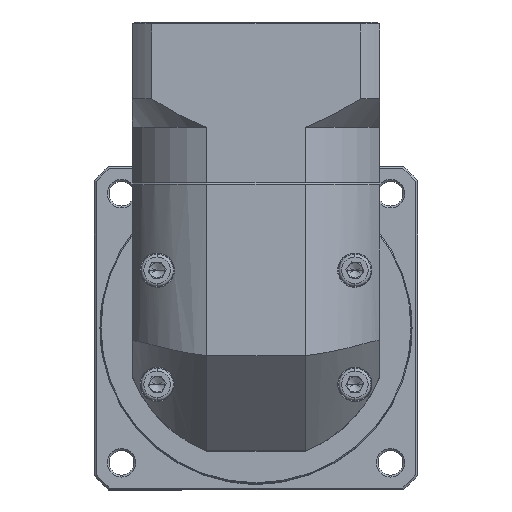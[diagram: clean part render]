
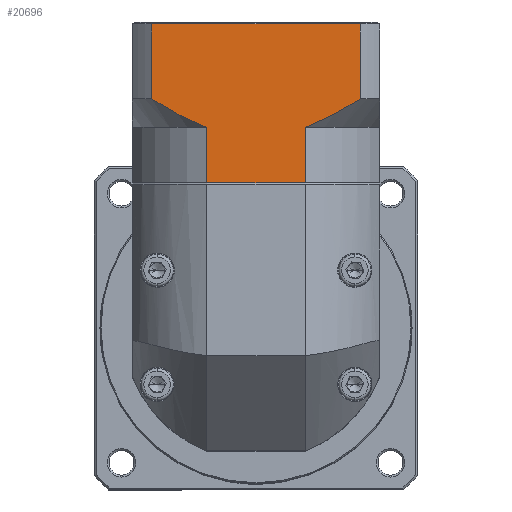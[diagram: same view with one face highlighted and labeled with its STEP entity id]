
A CAD part, top view. The second image highlights one B-rep face of the part: STEP entity #20696.
In plain terms, the highlighted planar face has unit normal (0, 0, 1).
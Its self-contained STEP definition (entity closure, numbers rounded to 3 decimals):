
#2153 = LINE ( 'NONE', #44701, #100082 ) ;
#2730 = VERTEX_POINT ( 'NONE', #47857 ) ;
#3401 = LINE ( 'NONE', #86720, #84725 ) ;
#9191 = CARTESIAN_POINT ( 'NONE',  ( -64.937, 80.015, 46.022 ) ) ;
#13860 = LINE ( 'NONE', #89253, #91756 ) ;
#14576 = CARTESIAN_POINT ( 'NONE',  ( -105.314, 102.015, 46.022 ) ) ;
#14679 = CARTESIAN_POINT ( 'NONE',  ( -64.295, 94.753, 46.022 ) ) ;
#15927 = VECTOR ( 'NONE', #34448, 1000. ) ;
#16199 = CARTESIAN_POINT ( 'NONE',  ( -64.937, 94.515, 46.022 ) ) ;
#17861 = VERTEX_POINT ( 'NONE', #131780 ) ;
#20255 = EDGE_CURVE ( 'NONE', #86479, #119621, #13860, .T. ) ;
#20696 = ADVANCED_FACE ( 'NONE', ( #104889 ), #47384, .F. ) ;
#23019 = EDGE_LOOP ( 'NONE', ( #104538, #62380, #130784, #41020, #104590, #46961, #92628, #80391 ) ) ;
#23926 = CARTESIAN_POINT ( 'NONE',  ( -50.541, 102.015, 46.022 ) ) ;
#25331 = CARTESIAN_POINT ( 'NONE',  ( -62.395, 95.531, 46.022 ) ) ;
#25639 = EDGE_CURVE ( 'NONE', #2730, #135716, #81844, .T. ) ;
#26285 = CARTESIAN_POINT ( 'NONE',  ( -103.024, 100.566, 46.022 ) ) ;
#29686 = VECTOR ( 'NONE', #118744, 1000. ) ;
#32464 = CARTESIAN_POINT ( 'NONE',  ( -105.314, 121.715, 46.022 ) ) ;
#34448 = DIRECTION ( 'NONE',  ( 0., 1., 0. ) ) ;
#35961 = CARTESIAN_POINT ( 'NONE',  ( -59.917, 96.655, 46.022 ) ) ;
#36245 = DIRECTION ( 'NONE',  ( 0., 1., 0. ) ) ;
#37761 = DIRECTION ( 'NONE',  ( 0., -1., 0. ) ) ;
#39498 = CARTESIAN_POINT ( 'NONE',  ( -50.541, 102.015, 46.022 ) ) ;
#41020 = ORIENTED_EDGE ( 'NONE', *, *, #115890, .T. ) ;
#43997 = B_SPLINE_CURVE_WITH_KNOTS ( 'NONE', 3,
 ( #55451, #14679, #98069, #25331, #120041, #35961, #110242, #87424, #46611, #23926 ),
 .UNSPECIFIED., .F., .F.,
 ( 4, 2, 2, 2, 4 ),
 ( 0.101, 0.103, 0.105, 0.109, 0.117 ),
 .UNSPECIFIED. ) ;
#44134 = EDGE_CURVE ( 'NONE', #2730, #83919, #72950, .T. ) ;
#44481 = DIRECTION ( 'NONE',  ( 0., 1., 0. ) ) ;
#44701 = CARTESIAN_POINT ( 'NONE',  ( -110.428, 80.015, 46.022 ) ) ;
#46611 = CARTESIAN_POINT ( 'NONE',  ( -52.81, 100.553, 46.022 ) ) ;
#46961 = ORIENTED_EDGE ( 'NONE', *, *, #131597, .T. ) ;
#47384 = PLANE ( 'NONE',  #53371 ) ;
#47857 = CARTESIAN_POINT ( 'NONE',  ( -50.541, 121.715, 46.022 ) ) ;
#48451 = CARTESIAN_POINT ( 'NONE',  ( -50.541, 94.515, 46.022 ) ) ;
#52506 = CARTESIAN_POINT ( 'NONE',  ( -90.918, 94.515, 46.022 ) ) ;
#53371 = AXIS2_PLACEMENT_3D ( 'NONE', #68312, #78962, #36245 ) ;
#53630 = VECTOR ( 'NONE', #123318, 1000. ) ;
#55451 = CARTESIAN_POINT ( 'NONE',  ( -64.937, 94.515, 46.022 ) ) ;
#58537 = EDGE_CURVE ( 'NONE', #17861, #119818, #3401, .T. ) ;
#62380 = ORIENTED_EDGE ( 'NONE', *, *, #44134, .T. ) ;
#65219 = DIRECTION ( 'NONE',  ( 1., 0., 0. ) ) ;
#66674 = CARTESIAN_POINT ( 'NONE',  ( -110.428, 121.715, 46.022 ) ) ;
#68312 = CARTESIAN_POINT ( 'NONE',  ( -110.428, 122.215, 46.022 ) ) ;
#72950 = LINE ( 'NONE', #66674, #29686 ) ;
#76405 = EDGE_CURVE ( 'NONE', #137198, #83919, #78974, .T. ) ;
#78962 = DIRECTION ( 'NONE',  ( 0., 0., -1. ) ) ;
#78974 = LINE ( 'NONE', #109129, #15927 ) ;
#79150 = CARTESIAN_POINT ( 'NONE',  ( -104.175, 101.281, 46.022 ) ) ;
#80391 = ORIENTED_EDGE ( 'NONE', *, *, #102032, .T. ) ;
#81844 = LINE ( 'NONE', #48451, #53630 ) ;
#83919 = VERTEX_POINT ( 'NONE', #32464 ) ;
#84725 = VECTOR ( 'NONE', #44481, 1000. ) ;
#86479 = VERTEX_POINT ( 'NONE', #16199 ) ;
#86720 = CARTESIAN_POINT ( 'NONE',  ( -90.918, 94.515, 46.022 ) ) ;
#87424 = CARTESIAN_POINT ( 'NONE',  ( -55.124, 99.165, 46.022 ) ) ;
#89253 = CARTESIAN_POINT ( 'NONE',  ( -64.937, 94.515, 46.022 ) ) ;
#90221 = CARTESIAN_POINT ( 'NONE',  ( -99.504, 98.511, 46.022 ) ) ;
#91756 = VECTOR ( 'NONE', #37761, 1000. ) ;
#92628 = ORIENTED_EDGE ( 'NONE', *, *, #20255, .F. ) ;
#98069 = CARTESIAN_POINT ( 'NONE',  ( -63.656, 95.005, 46.022 ) ) ;
#100082 = VECTOR ( 'NONE', #65219, 1000. ) ;
#100465 = CARTESIAN_POINT ( 'NONE',  ( -95.908, 96.601, 46.022 ) ) ;
#100913 = CARTESIAN_POINT ( 'NONE',  ( -93.456, 95.457, 46.022 ) ) ;
#101337 = B_SPLINE_CURVE_WITH_KNOTS ( 'NONE', 3,
 ( #110284, #79150, #26285, #131251, #90221, #100465, #100913, #133090 ),
 .UNSPECIFIED., .F., .F.,
 ( 4, 2, 2, 4 ),
 ( 0.058, 0.062, 0.066, 0.074 ),
 .UNSPECIFIED. ) ;
#102032 = EDGE_CURVE ( 'NONE', #86479, #135716, #43997, .T. ) ;
#104538 = ORIENTED_EDGE ( 'NONE', *, *, #25639, .F. ) ;
#104590 = ORIENTED_EDGE ( 'NONE', *, *, #58537, .F. ) ;
#104889 = FACE_OUTER_BOUND ( 'NONE', #23019, .T. ) ;
#109129 = CARTESIAN_POINT ( 'NONE',  ( -105.314, 94.515, 46.022 ) ) ;
#110242 = CARTESIAN_POINT ( 'NONE',  ( -58.705, 97.26, 46.022 ) ) ;
#110284 = CARTESIAN_POINT ( 'NONE',  ( -105.314, 102.015, 46.022 ) ) ;
#115890 = EDGE_CURVE ( 'NONE', #137198, #119818, #101337, .T. ) ;
#118744 = DIRECTION ( 'NONE',  ( -1., 0., 0. ) ) ;
#119621 = VERTEX_POINT ( 'NONE', #9191 ) ;
#119818 = VERTEX_POINT ( 'NONE', #52506 ) ;
#120041 = CARTESIAN_POINT ( 'NONE',  ( -61.771, 95.805, 46.022 ) ) ;
#123318 = DIRECTION ( 'NONE',  ( 0., -1., 0. ) ) ;
#130784 = ORIENTED_EDGE ( 'NONE', *, *, #76405, .F. ) ;
#131251 = CARTESIAN_POINT ( 'NONE',  ( -100.689, 99.181, 46.022 ) ) ;
#131597 = EDGE_CURVE ( 'NONE', #17861, #119621, #2153, .T. ) ;
#131780 = CARTESIAN_POINT ( 'NONE',  ( -90.918, 80.015, 46.022 ) ) ;
#133090 = CARTESIAN_POINT ( 'NONE',  ( -90.918, 94.515, 46.022 ) ) ;
#135716 = VERTEX_POINT ( 'NONE', #39498 ) ;
#137198 = VERTEX_POINT ( 'NONE', #14576 ) ;
